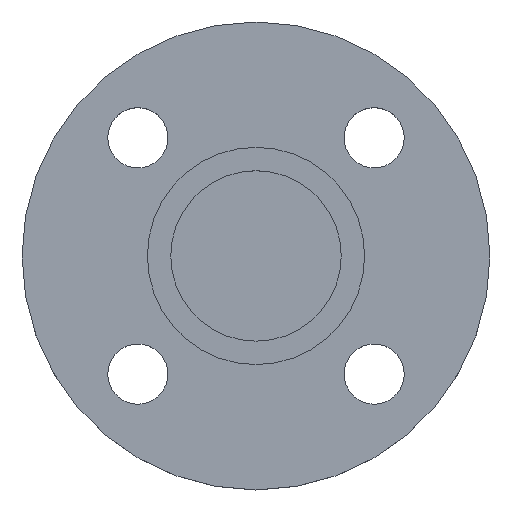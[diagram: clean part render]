
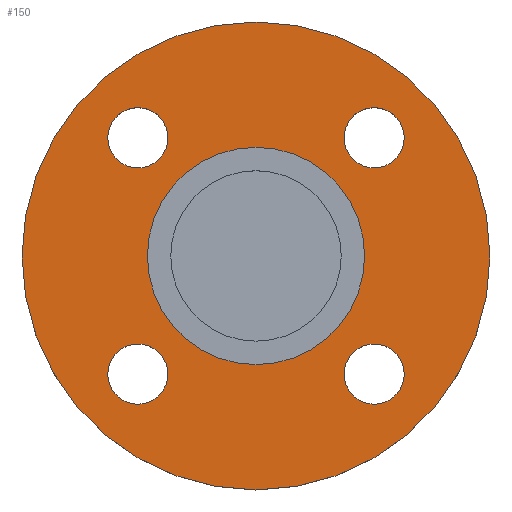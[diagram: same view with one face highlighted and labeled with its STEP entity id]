
A CAD part, top view. The second image highlights one B-rep face of the part: STEP entity #150.
In plain terms, the highlighted planar face has unit normal (0, 0, 1).
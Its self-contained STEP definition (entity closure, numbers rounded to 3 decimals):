
#3 = CIRCLE ( 'NONE', #9, 70. ) ;
#5 = DIRECTION ( 'NONE',  ( 1., 0., 0. ) ) ;
#9 = AXIS2_PLACEMENT_3D ( 'NONE', #185, #352, #532 ) ;
#20 = EDGE_CURVE ( 'NONE', #486, #456, #3, .T. ) ;
#21 = AXIS2_PLACEMENT_3D ( 'NONE', #130, #309, #487 ) ;
#27 = CIRCLE ( 'NONE', #29, 32.5 ) ;
#29 = AXIS2_PLACEMENT_3D ( 'NONE', #136, #314, #492 ) ;
#33 = ORIENTED_EDGE ( 'NONE', *, *, #229, .T. ) ;
#35 = VERTEX_POINT ( 'NONE', #81 ) ;
#36 = DIRECTION ( 'NONE',  ( 0., 0., -1. ) ) ;
#43 = EDGE_CURVE ( 'NONE', #121, #196, #27, .T. ) ;
#44 = CARTESIAN_POINT ( 'NONE',  ( 32.5, 0., -4.5 ) ) ;
#49 = DIRECTION ( 'NONE',  ( -1., 0., 0. ) ) ;
#60 = CIRCLE ( 'NONE', #155, 70. ) ;
#61 = CARTESIAN_POINT ( 'NONE',  ( 35.355, 35.355, -4.5 ) ) ;
#67 = CIRCLE ( 'NONE', #69, 9. ) ;
#69 = AXIS2_PLACEMENT_3D ( 'NONE', #453, #36, #238 ) ;
#80 = EDGE_CURVE ( 'NONE', #559, #258, #67, .T. ) ;
#81 = CARTESIAN_POINT ( 'NONE',  ( -44.355, 35.355, -4.5 ) ) ;
#89 = CIRCLE ( 'NONE', #422, 9. ) ;
#97 = FACE_BOUND ( 'NONE', #234, .T. ) ;
#101 = CARTESIAN_POINT ( 'NONE',  ( 44.355, -35.355, -4.5 ) ) ;
#121 = VERTEX_POINT ( 'NONE', #412 ) ;
#125 = AXIS2_PLACEMENT_3D ( 'NONE', #44, #246, #416 ) ;
#127 = CIRCLE ( 'NONE', #137, 9. ) ;
#130 = CARTESIAN_POINT ( 'NONE',  ( -35.355, 35.355, -4.5 ) ) ;
#136 = CARTESIAN_POINT ( 'NONE',  ( 0., 0., -4.5 ) ) ;
#137 = AXIS2_PLACEMENT_3D ( 'NONE', #589, #203, #369 ) ;
#138 = ORIENTED_EDGE ( 'NONE', *, *, #415, .T. ) ;
#147 = FACE_BOUND ( 'NONE', #241, .T. ) ;
#148 = DIRECTION ( 'NONE',  ( 0., 0., -1. ) ) ;
#150 = ADVANCED_FACE ( 'NONE', ( #545, #147, #323, #507, #97, #287 ), #459, .T. ) ;
#155 = AXIS2_PLACEMENT_3D ( 'NONE', #290, #463, #49 ) ;
#156 = EDGE_CURVE ( 'NONE', #525, #225, #127, .T. ) ;
#157 = CARTESIAN_POINT ( 'NONE',  ( 0., 0., -4.5 ) ) ;
#169 = CIRCLE ( 'NONE', #483, 9. ) ;
#174 = CARTESIAN_POINT ( 'NONE',  ( -35.355, 35.355, -4.5 ) ) ;
#181 = AXIS2_PLACEMENT_3D ( 'NONE', #546, #148, #324 ) ;
#184 = VERTEX_POINT ( 'NONE', #584 ) ;
#185 = CARTESIAN_POINT ( 'NONE',  ( 0., 0., -4.5 ) ) ;
#188 = EDGE_LOOP ( 'NONE', ( #138, #495 ) ) ;
#193 = CIRCLE ( 'NONE', #181, 9. ) ;
#196 = VERTEX_POINT ( 'NONE', #458 ) ;
#202 = CARTESIAN_POINT ( 'NONE',  ( -26.355, -35.355, -4.5 ) ) ;
#203 = DIRECTION ( 'NONE',  ( 0., 0., -1. ) ) ;
#204 = DIRECTION ( 'NONE',  ( 0., 0., -1. ) ) ;
#225 = VERTEX_POINT ( 'NONE', #202 ) ;
#229 = EDGE_CURVE ( 'NONE', #272, #299, #193, .T. ) ;
#234 = EDGE_LOOP ( 'NONE', ( #279, #237 ) ) ;
#237 = ORIENTED_EDGE ( 'NONE', *, *, #292, .T. ) ;
#238 = DIRECTION ( 'NONE',  ( 1., 0., 0. ) ) ;
#241 = EDGE_LOOP ( 'NONE', ( #404, #577 ) ) ;
#243 = CIRCLE ( 'NONE', #316, 32.5 ) ;
#246 = DIRECTION ( 'NONE',  ( 0., 0., 1. ) ) ;
#253 = CARTESIAN_POINT ( 'NONE',  ( -35.355, -35.355, -4.5 ) ) ;
#255 = DIRECTION ( 'NONE',  ( 0., 0., -1. ) ) ;
#258 = VERTEX_POINT ( 'NONE', #508 ) ;
#268 = EDGE_CURVE ( 'NONE', #299, #272, #169, .T. ) ;
#272 = VERTEX_POINT ( 'NONE', #548 ) ;
#275 = ORIENTED_EDGE ( 'NONE', *, *, #268, .T. ) ;
#279 = ORIENTED_EDGE ( 'NONE', *, *, #43, .T. ) ;
#285 = CIRCLE ( 'NONE', #510, 9. ) ;
#287 = FACE_OUTER_BOUND ( 'NONE', #431, .T. ) ;
#290 = CARTESIAN_POINT ( 'NONE',  ( 0., 0., -4.5 ) ) ;
#292 = EDGE_CURVE ( 'NONE', #196, #121, #243, .T. ) ;
#293 = CIRCLE ( 'NONE', #21, 9. ) ;
#299 = VERTEX_POINT ( 'NONE', #101 ) ;
#309 = DIRECTION ( 'NONE',  ( 0., 0., -1. ) ) ;
#314 = DIRECTION ( 'NONE',  ( 0., 0., -1. ) ) ;
#316 = AXIS2_PLACEMENT_3D ( 'NONE', #157, #330, #511 ) ;
#318 = EDGE_CURVE ( 'NONE', #456, #486, #60, .T. ) ;
#323 = FACE_BOUND ( 'NONE', #544, .T. ) ;
#324 = DIRECTION ( 'NONE',  ( 1., 0., 0. ) ) ;
#329 = CIRCLE ( 'NONE', #401, 9. ) ;
#330 = DIRECTION ( 'NONE',  ( 0., 0., -1. ) ) ;
#343 = DIRECTION ( 'NONE',  ( 0., 0., -1. ) ) ;
#352 = DIRECTION ( 'NONE',  ( 0., 0., -1. ) ) ;
#358 = ORIENTED_EDGE ( 'NONE', *, *, #493, .T. ) ;
#362 = ORIENTED_EDGE ( 'NONE', *, *, #20, .F. ) ;
#369 = DIRECTION ( 'NONE',  ( 1., 0., 0. ) ) ;
#370 = DIRECTION ( 'NONE',  ( 1., 0., 0. ) ) ;
#391 = EDGE_CURVE ( 'NONE', #225, #525, #285, .T. ) ;
#393 = CARTESIAN_POINT ( 'NONE',  ( -44.355, -35.355, -4.5 ) ) ;
#401 = AXIS2_PLACEMENT_3D ( 'NONE', #61, #255, #516 ) ;
#404 = ORIENTED_EDGE ( 'NONE', *, *, #391, .T. ) ;
#412 = CARTESIAN_POINT ( 'NONE',  ( -32.5, 0., -4.5 ) ) ;
#415 = EDGE_CURVE ( 'NONE', #258, #559, #329, .T. ) ;
#416 = DIRECTION ( 'NONE',  ( 1., 0., 0. ) ) ;
#422 = AXIS2_PLACEMENT_3D ( 'NONE', #174, #343, #523 ) ;
#427 = DIRECTION ( 'NONE',  ( 0., 0., -1. ) ) ;
#431 = EDGE_LOOP ( 'NONE', ( #581, #362 ) ) ;
#453 = CARTESIAN_POINT ( 'NONE',  ( 35.355, 35.355, -4.5 ) ) ;
#456 = VERTEX_POINT ( 'NONE', #475 ) ;
#458 = CARTESIAN_POINT ( 'NONE',  ( 32.5, 0., -4.5 ) ) ;
#459 = PLANE ( 'NONE',  #125 ) ;
#463 = DIRECTION ( 'NONE',  ( 0., 0., -1. ) ) ;
#475 = CARTESIAN_POINT ( 'NONE',  ( 70., 0., -4.5 ) ) ;
#483 = AXIS2_PLACEMENT_3D ( 'NONE', #591, #204, #370 ) ;
#486 = VERTEX_POINT ( 'NONE', #561 ) ;
#487 = DIRECTION ( 'NONE',  ( 1., 0., 0. ) ) ;
#492 = DIRECTION ( 'NONE',  ( -1., 0., 0. ) ) ;
#493 = EDGE_CURVE ( 'NONE', #184, #35, #89, .T. ) ;
#495 = ORIENTED_EDGE ( 'NONE', *, *, #80, .T. ) ;
#507 = FACE_BOUND ( 'NONE', #188, .T. ) ;
#508 = CARTESIAN_POINT ( 'NONE',  ( 44.355, 35.355, -4.5 ) ) ;
#510 = AXIS2_PLACEMENT_3D ( 'NONE', #253, #427, #5 ) ;
#511 = DIRECTION ( 'NONE',  ( -1., 0., 0. ) ) ;
#516 = DIRECTION ( 'NONE',  ( 1., 0., 0. ) ) ;
#523 = DIRECTION ( 'NONE',  ( 1., 0., 0. ) ) ;
#525 = VERTEX_POINT ( 'NONE', #393 ) ;
#529 = CARTESIAN_POINT ( 'NONE',  ( 26.355, 35.355, -4.5 ) ) ;
#532 = DIRECTION ( 'NONE',  ( -1., 0., 0. ) ) ;
#534 = EDGE_LOOP ( 'NONE', ( #275, #33 ) ) ;
#536 = ORIENTED_EDGE ( 'NONE', *, *, #567, .T. ) ;
#544 = EDGE_LOOP ( 'NONE', ( #358, #536 ) ) ;
#545 = FACE_BOUND ( 'NONE', #534, .T. ) ;
#546 = CARTESIAN_POINT ( 'NONE',  ( 35.355, -35.355, -4.5 ) ) ;
#548 = CARTESIAN_POINT ( 'NONE',  ( 26.355, -35.355, -4.5 ) ) ;
#559 = VERTEX_POINT ( 'NONE', #529 ) ;
#561 = CARTESIAN_POINT ( 'NONE',  ( -70., 0., -4.5 ) ) ;
#567 = EDGE_CURVE ( 'NONE', #35, #184, #293, .T. ) ;
#577 = ORIENTED_EDGE ( 'NONE', *, *, #156, .T. ) ;
#581 = ORIENTED_EDGE ( 'NONE', *, *, #318, .F. ) ;
#584 = CARTESIAN_POINT ( 'NONE',  ( -26.355, 35.355, -4.5 ) ) ;
#589 = CARTESIAN_POINT ( 'NONE',  ( -35.355, -35.355, -4.5 ) ) ;
#591 = CARTESIAN_POINT ( 'NONE',  ( 35.355, -35.355, -4.5 ) ) ;
